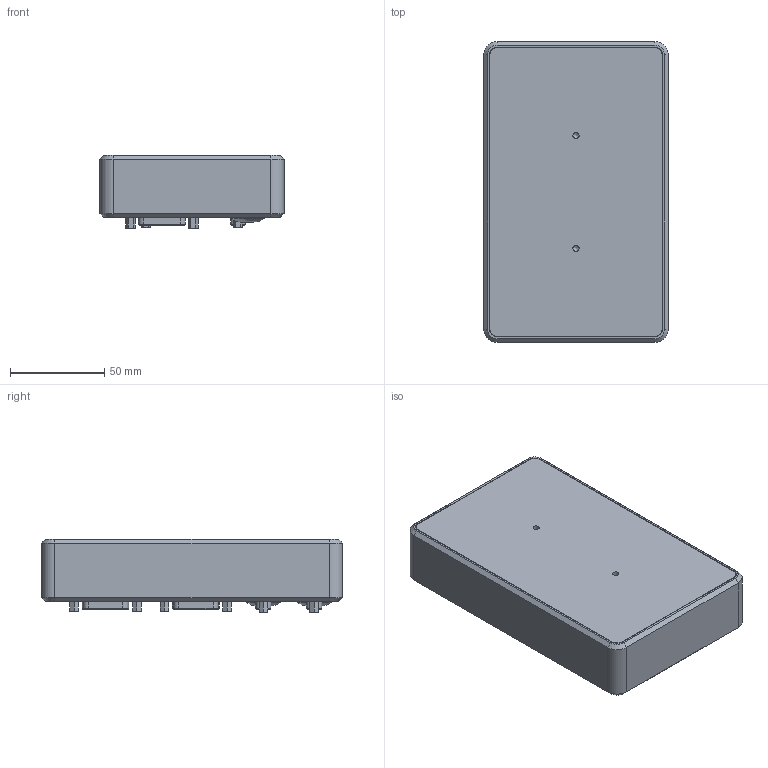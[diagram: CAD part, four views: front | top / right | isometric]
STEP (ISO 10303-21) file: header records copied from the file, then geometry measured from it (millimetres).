
FILE_DESCRIPTION(/* description */ (''),/* implementation_level */ '2;1');
FILE_NAME(/* name */ 'I:\Users\Alle\Inventor\_Projekte\254_B40.0 Irinos\Vereinfachte Modelle\B40.0 INCbox_LI_vereinfacht.stp',/* time_stamp */ '2022-11-09T09:35:11+01:00',/* author */ ('PE'),/* organization */ (''),/* preprocessor_version */ 'ST-DEVELOPER v18.1',/* originating_system */ 'Autodesk Inventor 2021',/* authorisation */ '');
FILE_SCHEMA (('AUTOMOTIVE_DESIGN { 1 0 10303 214 3 1 1 }'));
Length unit declared in the file: millimetre
Products named in the file (1): B40.0 INCbox_LI_vereinfacht
Bounding box: 98 x 160 x 39 mm (x, y, z)
Volume: 517973.1 mm3; surface area: 60579.4 mm2
Topology: 1 solids, 3 shells, 1230 faces, 3001 edges, 1888 vertices
Faces by surface type: plane 563, cylinder 380, cone 153, torus 100, bspline 34
Full cylindrical faces by diameter (mm): 1.2 x90, 2.459 x15, 2.5 x9, 3 x4, 3.242 x2, 3.3 x4, 3.4 x3, 16.1 x2, 18 x2
Entity records: 41557 total; most frequent: CARTESIAN_POINT 10733, DIRECTION 6406, ORIENTED_EDGE 5974, EDGE_CURVE 2987, AXIS2_PLACEMENT_3D 2410, VERTEX_POINT 1888, LINE 1586, VECTOR 1586
